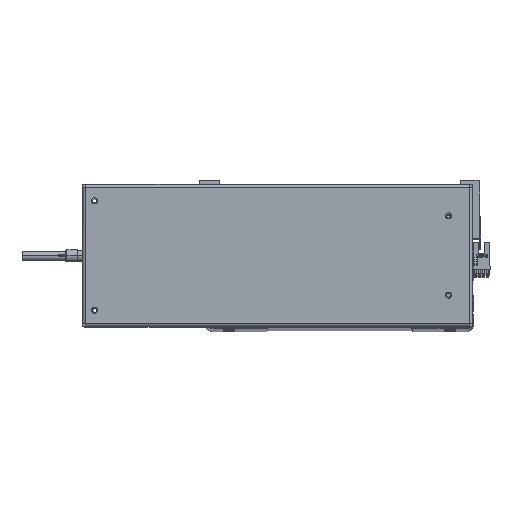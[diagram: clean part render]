
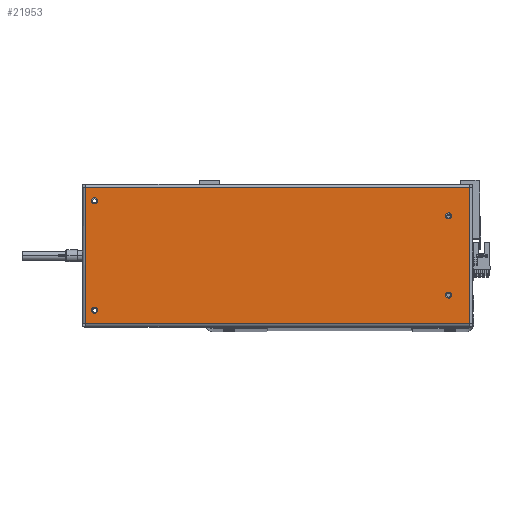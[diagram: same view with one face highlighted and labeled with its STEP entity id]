
A CAD part, top view. The second image highlights one B-rep face of the part: STEP entity #21953.
In plain terms, the highlighted planar face has unit normal (0, 0, 1).
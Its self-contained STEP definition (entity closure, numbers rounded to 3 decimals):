
#451 = EDGE_CURVE ( 'NONE', #19194, #15542, #27083, .T. ) ;
#1835 = CARTESIAN_POINT ( 'NONE',  ( 157.7, 58.5, 0. ) ) ;
#1850 = EDGE_CURVE ( 'NONE', #12225, #40933, #37184, .T. ) ;
#2203 = CARTESIAN_POINT ( 'NONE',  ( -157.6, -55.6, 0. ) ) ;
#2512 = CARTESIAN_POINT ( 'NONE',  ( -140.5, 32.5, 0. ) ) ;
#2660 = DIRECTION ( 'NONE',  ( 1., 0., 0. ) ) ;
#2757 = VERTEX_POINT ( 'NONE', #11936 ) ;
#3213 = CARTESIAN_POINT ( 'NONE',  ( -157.6, 55.6, 0. ) ) ;
#3427 = ORIENTED_EDGE ( 'NONE', *, *, #23129, .F. ) ;
#3508 = VERTEX_POINT ( 'NONE', #26558 ) ;
#4235 = EDGE_CURVE ( 'NONE', #16575, #34478, #27928, .T. ) ;
#4314 = EDGE_LOOP ( 'NONE', ( #32230, #15504 ) ) ;
#5284 = FACE_BOUND ( 'NONE', #31890, .T. ) ;
#5717 = CIRCLE ( 'NONE', #8312, 2.5 ) ;
#6012 = DIRECTION ( 'NONE',  ( 0., 0., 1. ) ) ;
#6950 = CARTESIAN_POINT ( 'NONE',  ( 150.5, 45., 0. ) ) ;
#7311 = CARTESIAN_POINT ( 'NONE',  ( -140.5, 32.5, 0. ) ) ;
#7693 = CARTESIAN_POINT ( 'NONE',  ( -157.7, -55.6, 0. ) ) ;
#7935 = CARTESIAN_POINT ( 'NONE',  ( -138., -32.5, 0. ) ) ;
#8312 = AXIS2_PLACEMENT_3D ( 'NONE', #17057, #16650, #13536 ) ;
#9377 = CARTESIAN_POINT ( 'NONE',  ( -140.5, -32.5, 0. ) ) ;
#9472 = VECTOR ( 'NONE', #38750, 1000. ) ;
#10517 = DIRECTION ( 'NONE',  ( 1., 0., 0. ) ) ;
#10564 = EDGE_CURVE ( 'NONE', #22895, #36908, #38802, .T. ) ;
#11089 = CARTESIAN_POINT ( 'NONE',  ( -138., 32.5, 0. ) ) ;
#11647 = CIRCLE ( 'NONE', #18545, 2.5 ) ;
#11664 = CARTESIAN_POINT ( 'NONE',  ( -157.6, 55.6, 0. ) ) ;
#11936 = CARTESIAN_POINT ( 'NONE',  ( 148., 45., 0. ) ) ;
#12225 = VERTEX_POINT ( 'NONE', #26434 ) ;
#12512 = CARTESIAN_POINT ( 'NONE',  ( 150.5, 45., 0. ) ) ;
#12564 = VECTOR ( 'NONE', #14745, 1000. ) ;
#13536 = DIRECTION ( 'NONE',  ( 1., 0., 0. ) ) ;
#13653 = CARTESIAN_POINT ( 'NONE',  ( 148., -45., 0. ) ) ;
#14729 = VECTOR ( 'NONE', #34781, 1000. ) ;
#14745 = DIRECTION ( 'NONE',  ( 0., -1., 0. ) ) ;
#15396 = CARTESIAN_POINT ( 'NONE',  ( 157.6, -55.6, 0. ) ) ;
#15504 = ORIENTED_EDGE ( 'NONE', *, *, #41060, .F. ) ;
#15542 = VERTEX_POINT ( 'NONE', #27166 ) ;
#16155 = DIRECTION ( 'NONE',  ( 1., 0., 0. ) ) ;
#16544 = AXIS2_PLACEMENT_3D ( 'NONE', #22210, #31864, #39375 ) ;
#16555 = CIRCLE ( 'NONE', #39138, 2.5 ) ;
#16575 = VERTEX_POINT ( 'NONE', #3213 ) ;
#16630 = AXIS2_PLACEMENT_3D ( 'NONE', #7311, #23530, #10517 ) ;
#16650 = DIRECTION ( 'NONE',  ( 0., 0., 1. ) ) ;
#17057 = CARTESIAN_POINT ( 'NONE',  ( -140.5, -32.5, 0. ) ) ;
#17245 = FACE_BOUND ( 'NONE', #21954, .T. ) ;
#17258 = ORIENTED_EDGE ( 'NONE', *, *, #4235, .T. ) ;
#17981 = LINE ( 'NONE', #7693, #9472 ) ;
#17992 = EDGE_LOOP ( 'NONE', ( #19150, #25168 ) ) ;
#17996 = ORIENTED_EDGE ( 'NONE', *, *, #19368, .F. ) ;
#18545 = AXIS2_PLACEMENT_3D ( 'NONE', #2512, #24584, #2660 ) ;
#18741 = AXIS2_PLACEMENT_3D ( 'NONE', #12512, #6012, #40768 ) ;
#18747 = FACE_OUTER_BOUND ( 'NONE', #29210, .T. ) ;
#19150 = ORIENTED_EDGE ( 'NONE', *, *, #39562, .F. ) ;
#19194 = VERTEX_POINT ( 'NONE', #15396 ) ;
#19368 = EDGE_CURVE ( 'NONE', #36908, #22895, #5717, .T. ) ;
#19716 = FACE_BOUND ( 'NONE', #17992, .T. ) ;
#21953 = ADVANCED_FACE ( 'NONE', ( #17245, #5284, #24158, #19716, #18747 ), #23878, .F. ) ;
#21954 = EDGE_LOOP ( 'NONE', ( #17996, #25970 ) ) ;
#22210 = CARTESIAN_POINT ( 'NONE',  ( 150.5, -45., 0. ) ) ;
#22558 = VERTEX_POINT ( 'NONE', #11089 ) ;
#22660 = VECTOR ( 'NONE', #35248, 1000. ) ;
#22895 = VERTEX_POINT ( 'NONE', #23482 ) ;
#23129 = EDGE_CURVE ( 'NONE', #22558, #37026, #11647, .T. ) ;
#23482 = CARTESIAN_POINT ( 'NONE',  ( -143., -32.5, 0. ) ) ;
#23530 = DIRECTION ( 'NONE',  ( 0., 0., 1. ) ) ;
#23878 = PLANE ( 'NONE',  #25600 ) ;
#24158 = FACE_BOUND ( 'NONE', #4314, .T. ) ;
#24584 = DIRECTION ( 'NONE',  ( 0., 0., 1. ) ) ;
#25168 = ORIENTED_EDGE ( 'NONE', *, *, #27279, .F. ) ;
#25600 = AXIS2_PLACEMENT_3D ( 'NONE', #1835, #27034, #27174 ) ;
#25970 = ORIENTED_EDGE ( 'NONE', *, *, #10564, .F. ) ;
#26129 = CARTESIAN_POINT ( 'NONE',  ( 157.6, -55.6, 0. ) ) ;
#26434 = CARTESIAN_POINT ( 'NONE',  ( 153., -45., 0. ) ) ;
#26558 = CARTESIAN_POINT ( 'NONE',  ( 153., 45., 0. ) ) ;
#27034 = DIRECTION ( 'NONE',  ( 0., 0., -1. ) ) ;
#27083 = LINE ( 'NONE', #26129, #22660 ) ;
#27166 = CARTESIAN_POINT ( 'NONE',  ( 157.6, 55.6, 0. ) ) ;
#27174 = DIRECTION ( 'NONE',  ( -1., 0., 0. ) ) ;
#27279 = EDGE_CURVE ( 'NONE', #2757, #3508, #38573, .T. ) ;
#27928 = LINE ( 'NONE', #11664, #12564 ) ;
#29117 = DIRECTION ( 'NONE',  ( 0., 0., 1. ) ) ;
#29210 = EDGE_LOOP ( 'NONE', ( #17258, #29668, #33180, #35340 ) ) ;
#29668 = ORIENTED_EDGE ( 'NONE', *, *, #37861, .T. ) ;
#29982 = DIRECTION ( 'NONE',  ( 0., 0., 1. ) ) ;
#30114 = CARTESIAN_POINT ( 'NONE',  ( 150.5, -45., 0. ) ) ;
#30129 = EDGE_CURVE ( 'NONE', #37026, #22558, #33342, .T. ) ;
#30869 = CARTESIAN_POINT ( 'NONE',  ( -143., 32.5, 0. ) ) ;
#31375 = DIRECTION ( 'NONE',  ( 1., 0., 0. ) ) ;
#31864 = DIRECTION ( 'NONE',  ( 0., 0., 1. ) ) ;
#31890 = EDGE_LOOP ( 'NONE', ( #3427, #33951 ) ) ;
#32230 = ORIENTED_EDGE ( 'NONE', *, *, #1850, .F. ) ;
#32525 = CIRCLE ( 'NONE', #18741, 2.5 ) ;
#33158 = DIRECTION ( 'NONE',  ( 1., 0., 0. ) ) ;
#33180 = ORIENTED_EDGE ( 'NONE', *, *, #451, .T. ) ;
#33342 = CIRCLE ( 'NONE', #16630, 2.5 ) ;
#33951 = ORIENTED_EDGE ( 'NONE', *, *, #30129, .F. ) ;
#34478 = VERTEX_POINT ( 'NONE', #2203 ) ;
#34781 = DIRECTION ( 'NONE',  ( -1., 0., 0. ) ) ;
#35029 = LINE ( 'NONE', #41045, #14729 ) ;
#35248 = DIRECTION ( 'NONE',  ( 0., 1., 0. ) ) ;
#35340 = ORIENTED_EDGE ( 'NONE', *, *, #38331, .T. ) ;
#36908 = VERTEX_POINT ( 'NONE', #7935 ) ;
#37026 = VERTEX_POINT ( 'NONE', #30869 ) ;
#37184 = CIRCLE ( 'NONE', #16544, 2.5 ) ;
#37861 = EDGE_CURVE ( 'NONE', #34478, #19194, #17981, .T. ) ;
#38194 = DIRECTION ( 'NONE',  ( 0., 0., 1. ) ) ;
#38331 = EDGE_CURVE ( 'NONE', #15542, #16575, #35029, .T. ) ;
#38573 = CIRCLE ( 'NONE', #40328, 2.5 ) ;
#38750 = DIRECTION ( 'NONE',  ( 1., 0., 0. ) ) ;
#38802 = CIRCLE ( 'NONE', #39867, 2.5 ) ;
#39138 = AXIS2_PLACEMENT_3D ( 'NONE', #30114, #29982, #33158 ) ;
#39375 = DIRECTION ( 'NONE',  ( 1., 0., 0. ) ) ;
#39562 = EDGE_CURVE ( 'NONE', #3508, #2757, #32525, .T. ) ;
#39867 = AXIS2_PLACEMENT_3D ( 'NONE', #9377, #38194, #31375 ) ;
#40328 = AXIS2_PLACEMENT_3D ( 'NONE', #6950, #29117, #16155 ) ;
#40768 = DIRECTION ( 'NONE',  ( 1., 0., 0. ) ) ;
#40933 = VERTEX_POINT ( 'NONE', #13653 ) ;
#41045 = CARTESIAN_POINT ( 'NONE',  ( 157.7, 55.6, 0. ) ) ;
#41060 = EDGE_CURVE ( 'NONE', #40933, #12225, #16555, .T. ) ;
